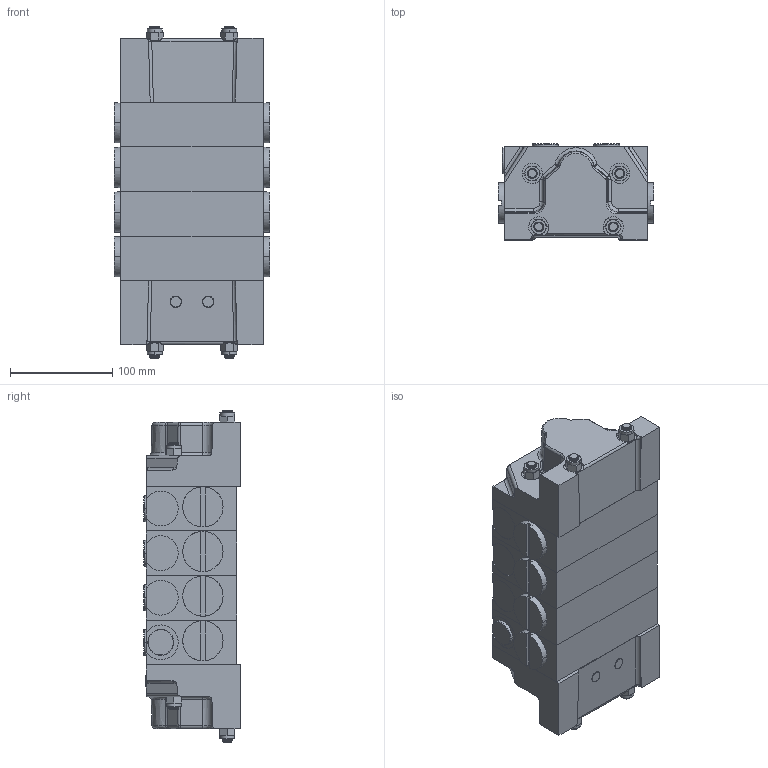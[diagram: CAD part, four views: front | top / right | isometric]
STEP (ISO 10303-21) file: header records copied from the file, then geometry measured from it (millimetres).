
FILE_DESCRIPTION((''),'2;1');
FILE_NAME('24R198-EN-J_PRT','2022-02-14T11:59:46',('qtmwp1'),(''),'CREO PARAMETRIC BY PTC INC, 2021072','CREO PARAMETRIC BY PTC INC, 2021072','');
FILE_SCHEMA(('CONFIG_CONTROL_DESIGN'));
Length unit declared in the file: inch
Products named in the file (1): 24R198-EN-J_PRT
Bounding box: 152.45 x 94.44 x 325.42 mm (x, y, z)
Surface area: 260612.2 mm2 (no closed solid volume)
Topology: 0 solids, 48 shells, 718 faces, 1979 edges, 1295 vertices
Faces by surface type: cylinder 347, plane 193, cone 106, bspline 56, sphere 12, torus 4
Entity records: 34052 total; most frequent: CARTESIAN_POINT 17812, ORIENTED_EDGE 3324, DIRECTION 2922, EDGE_CURVE 1979, VERTEX_POINT 1295, AXIS2_PLACEMENT_3D 1108, B_SPLINE_CURVE_WITH_KNOTS 827, EDGE_LOOP 718
